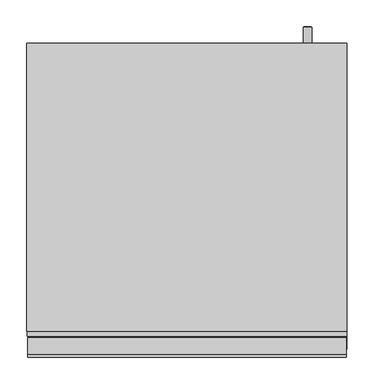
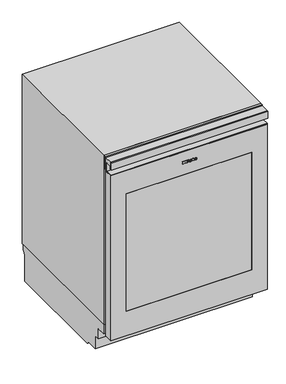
"""IFC4 building model written with IfcOpenShell, lengths in millimetres: proxy geometry, 12792300_OER_KWTUS7054F_OBSW : 39705410_OER_12792300_KWTUS7054F_OBSW."""

from ifc_helpers import new_model, si_unit, point, frame, frame_2d, origin, origin_with_axes, place, context, project, spatial, polyline, circle_curve, ellipse_curve, trimmed, segment, composite_curve, outline, extrude, faceted_brep, source, transform, mapped, element, save
from ifc_brep_helpers import plane_surface, cylinder_surface, revolved_surface, extruded_surface, advanced_brep


def specialty_equipment_a629af37(model_context):
    return source(origin(), model_context, "Body", "SolidModel", [
        extrude(outline(polyline([(722.339, -25.038), (722.339, -23.949), (716.318, -23.949), (716.318, -25.038), (714.806, -25.038), (714.806, -21.078), (716.318, -21.078), (716.318, -22.158), (720.1401247, -22.158), (714.806, -18.135), (720.2462223, -14.094), (716.318, -14.094), (716.318, -15.201), (714.806, -15.201), (714.806, -8.019), (716.318, -8.019), (716.318, -9.162), (722.339, -9.162), (722.339, -8.019), (723.806, -8.019), (723.806, -13.5), (720.431, -16.128), (723.806, -18.765), (723.806, -25.038), (722.339, -25.038)])), frame((0.0, -1.0, 0.0), z_axis=(0.0, 1.0, 0.0), x_axis=(0.0, 0.0, 1.0)), (0.0, 0.0, 1.0), 1.0),
        extrude(outline(polyline([(722.339, 11.484), (722.339, 12.564), (716.318, 12.564), (716.318, 11.484), (714.806, 11.484), (714.806, 18.783), (716.318, 18.783), (716.318, 17.676), (723.806, 17.676), (723.806, 11.484), (722.339, 11.484)])), frame((0.0, -1.0, 0.0), z_axis=(0.0, 1.0, 0.0), x_axis=(0.0, 0.0, 1.0)), (0.0, 0.0, 1.0), 1.0),
        extrude(outline(polyline([(723.275, -4.878), (721.817, -4.194), (723.239, -1.143), (724.697, -1.818), (723.275, -4.878)])), frame((0.0, -1.0, 0.0), z_axis=(0.0, 1.0, 0.0), x_axis=(0.0, 0.0, 1.0)), (0.0, 0.0, 1.0), 1.0),
        extrude(outline(polyline([(721.619, -7.101), (720.008, -7.101), (720.008, -6.03), (716.318, -6.03), (716.318, -7.101), (714.806, -7.101), (714.806, 0.0), (716.318, 0.0), (716.318, -1.044), (721.619, -1.044), (721.619, -7.101)])), frame((0.0, -1.0, 0.0), z_axis=(0.0, 1.0, 0.0), x_axis=(0.0, 0.0, 1.0)), (0.0, 0.0, 1.0), 1.0),
        advanced_brep(
        [(4.959, -1.0, 716.939), (4.959, -1.0, 717.848), (10.98, -1.0, 717.848), (0.504, -1.0, 717.848), (2.979, -1.0, 714.806), (10.827, -1.0, 716.939), (8.109, -1.0, 716.939), (5.967, -1.0, 715.931), (4.959, -1.0, 719.0), (4.959, -1.0, 719.981), (6.498, -1.0, 719.981), (6.498, -1.0, 719.0), (4.959, 0.0, 716.939), (5.967, 0.0, 715.931), (8.109, 0.0, 716.939), (10.827, 0.0, 716.939), (2.979, 0.0, 714.806), (0.504, 0.0, 717.848), (10.98, 0.0, 717.848), (4.959, 0.0, 717.848), (4.959, 0.0, 719.0), (6.498, 0.0, 719.0), (6.498, 0.0, 719.981), (4.959, 0.0, 719.981)],
        [
            (0, 1),
            (1, 2),
            (2, 3, ellipse_curve(frame((5.742, -1.0, 717.848), z_axis=(0.0, -1.0, 0.0), x_axis=(-1.0, 0.0, 0.0)), 5.238, 4.329)),
            (3, 4, circle_curve(frame((3.9870491, -1.0, 718.154), z_axis=(0.0, -1.0, 0.0), x_axis=(0.0, 0.0, -1.0)), 3.4964649)),
            (4, 5, circle_curve(frame((5.6371428, -1.0, 720.53), z_axis=(0.0, -1.0, 0.0), x_axis=(0.0, 0.0, -1.0)), 6.3110933)),
            (5, 6),
            (6, 7, circle_curve(frame((6.4069412, -1.0, 717.776), z_axis=(0.0, 1.0, 0.0), x_axis=(0.0, 0.0, -1.0)), 1.896727)),
            (7, 0, circle_curve(frame((5.967, -1.0, 716.939), z_axis=(0.0, 1.0, 0.0), x_axis=(0.0, 0.0, -1.0)), 1.008)),
            (8, 9),
            (9, 10, circle_curve(frame((5.7285, -1.0, 719.981), z_axis=(0.0, 1.0, 0.0), x_axis=(0.0, 0.0, -1.0)), 0.7695)),
            (10, 11),
            (11, 8),
            (12, 13, circle_curve(frame((5.967, 0.0, 716.939), z_axis=(0.0, -1.0, 0.0), x_axis=(0.0, 0.0, -1.0)), 1.008)),
            (13, 14, circle_curve(frame((6.4069412, 0.0, 717.776), z_axis=(0.0, -1.0, 0.0), x_axis=(0.0, 0.0, -1.0)), 1.896727)),
            (14, 15),
            (15, 16, circle_curve(frame((5.6371428, 0.0, 720.53), z_axis=(0.0, 1.0, 0.0), x_axis=(0.0, 0.0, -1.0)), 6.3110933)),
            (16, 17, circle_curve(frame((3.9870491, 0.0, 718.154), z_axis=(0.0, 1.0, 0.0), x_axis=(0.0, 0.0, -1.0)), 3.4964649)),
            (17, 18, ellipse_curve(frame((5.742, 0.0, 717.848), z_axis=(0.0, 1.0, 0.0), x_axis=(-1.0, 0.0, 0.0)), 5.238, 4.329)),
            (18, 19),
            (19, 12),
            (20, 21),
            (21, 22),
            (22, 23, circle_curve(frame((5.7285, 0.0, 719.981), z_axis=(0.0, -1.0, 0.0), x_axis=(0.0, 0.0, -1.0)), 0.7695)),
            (23, 20),
            (0, 12),
            (19, 1),
            (18, 2),
            (5, 15),
            (14, 6),
            (17, 3),
            (13, 7),
            (16, 4),
            (8, 20),
            (23, 9),
            (22, 10),
            (21, 11),
        ],
        [
            plane_surface(frame((4.959, -1.0, 717.848), z_axis=(0.0, -1.0, 0.0), x_axis=(0.0, 0.0, 1.0))),
            plane_surface(frame((4.959, 0.0, 717.848), z_axis=(0.0, 1.0, 0.0), x_axis=(0.0, 0.0, -1.0))),
            plane_surface(frame((4.959, -1.0, 716.939), z_axis=(1.0, 0.0, 0.0), x_axis=(0.0, 1.0, 0.0))),
            plane_surface(frame((4.959, -1.0, 717.848), z_axis=(0.0, 0.0, -1.0), x_axis=(0.0, 1.0, 0.0))),
            plane_surface(frame((10.827, -1.0, 716.939), z_axis=(0.0, 0.0, 1.0), x_axis=(0.0, 1.0, 0.0))),
            extruded_surface(trimmed(ellipse_curve(frame((5.742, 1.0, 717.848), z_axis=(0.0, -1.0, 0.0), x_axis=(-1.0, 0.0, 0.0)), 5.238, 4.329), [point((10.98, 1.0, 717.848))], [point((0.504, 1.0, 717.848))], True, "CARTESIAN"), (0.0, -1.0, 0.0), 1.0),
            revolved_surface(polyline([(6.4069412, 0.0, 715.8792729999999), (6.4069412, -1.0, 715.8792729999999)]), (6.4069412, 0.0, 717.776), (0.0, 1.0, 0.0)),
            revolved_surface(polyline([(5.967, 0.0, 715.9309999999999), (5.967, -1.0, 715.9309999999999)]), (5.967, 0.0, 716.939), (0.0, 1.0, 0.0)),
            cylinder_surface(frame((3.9870491, 0.0, 718.154), z_axis=(0.0, -1.0, 0.0), x_axis=(0.0, 0.0, -1.0)), 3.4964649),
            cylinder_surface(frame((5.6371428, 0.0, 720.53), z_axis=(0.0, -1.0, 0.0), x_axis=(0.0, 0.0, -1.0)), 6.3110933),
            plane_surface(frame((4.959, -1.0, 719.0), z_axis=(1.0, 0.0, 0.0), x_axis=(0.0, 1.0, 0.0))),
            revolved_surface(polyline([(5.7285, 0.0, 719.2115), (5.7285, -1.0, 719.2115)]), (5.7285, 0.0, 719.981), (0.0, 1.0, 0.0)),
            plane_surface(frame((6.498, -1.0, 719.981), z_axis=(-1.0, 0.0, 0.0), x_axis=(0.0, 1.0, 0.0))),
            plane_surface(frame((6.498, -1.0, 719.0), z_axis=(0.0, 0.0, 1.0), x_axis=(0.0, 1.0, 0.0))),
        ],
        [
            (0, [[1, 2, 3, 4, 5, 6, 7, 8], [9, 10, 11, 12]]),
            (1, [[13, 14, 15, 16, 17, 18, 19, 20], [21, 22, 23, 24]]),
            (2, [[-1, 25, -20, 26]]),
            (3, [[-2, -26, -19, 27]]),
            (4, [[-6, 28, -15, 29]]),
            (5, [[-3, -27, -18, 30]]),
            (6, [[-7, -29, -14, 31]]),
            (7, [[-8, -31, -13, -25]]),
            (8, [[-4, -30, -17, 32]]),
            (9, [[-5, -32, -16, -28]]),
            (10, [[-9, 33, -24, 34]]),
            (11, [[-10, -34, -23, 35]]),
            (12, [[-11, -35, -22, 36]]),
            (13, [[-12, -36, -21, -33]]),
        ],
    ),
        advanced_brep(
        [(23.742, -1.0, 716.939), (23.742, -1.0, 717.848), (29.763, -1.0, 717.848), (19.287, -1.0, 717.848), (21.762, -1.0, 714.806), (29.61, -1.0, 716.939), (26.892, -1.0, 716.939), (24.75, -1.0, 715.931), (23.742, -1.0, 719.0), (23.742, -1.0, 719.981), (25.281, -1.0, 719.981), (25.281, -1.0, 719.0), (23.742, 0.0, 716.939), (24.75, 0.0, 715.931), (26.892, 0.0, 716.939), (29.61, 0.0, 716.939), (21.762, 0.0, 714.806), (19.287, 0.0, 717.848), (29.763, 0.0, 717.848), (23.742, 0.0, 717.848), (23.742, 0.0, 719.0), (25.281, 0.0, 719.0), (25.281, 0.0, 719.981), (23.742, 0.0, 719.981)],
        [
            (0, 1),
            (1, 2),
            (2, 3, ellipse_curve(frame((24.525, -1.0, 717.848), z_axis=(0.0, -1.0, 0.0), x_axis=(-1.0, 0.0, 0.0)), 5.238, 4.329)),
            (3, 4, circle_curve(frame((22.7700491, -1.0, 718.154), z_axis=(0.0, -1.0, 0.0), x_axis=(0.0, 0.0, -1.0)), 3.4964649)),
            (4, 5, circle_curve(frame((24.4201428, -1.0, 720.53), z_axis=(0.0, -1.0, 0.0), x_axis=(0.0, 0.0, -1.0)), 6.3110933)),
            (5, 6),
            (6, 7, circle_curve(frame((25.1899412, -1.0, 717.776), z_axis=(0.0, 1.0, 0.0), x_axis=(0.0, 0.0, -1.0)), 1.896727)),
            (7, 0, circle_curve(frame((24.75, -1.0, 716.939), z_axis=(0.0, 1.0, 0.0), x_axis=(0.0, 0.0, -1.0)), 1.008)),
            (8, 9),
            (9, 10, circle_curve(frame((24.5115, -1.0, 719.981), z_axis=(0.0, 1.0, 0.0), x_axis=(0.0, 0.0, -1.0)), 0.7695)),
            (10, 11),
            (11, 8),
            (12, 13, circle_curve(frame((24.75, 0.0, 716.939), z_axis=(0.0, -1.0, 0.0), x_axis=(0.0, 0.0, -1.0)), 1.008)),
            (13, 14, circle_curve(frame((25.1899412, 0.0, 717.776), z_axis=(0.0, -1.0, 0.0), x_axis=(0.0, 0.0, -1.0)), 1.896727)),
            (14, 15),
            (15, 16, circle_curve(frame((24.4201428, 0.0, 720.53), z_axis=(0.0, 1.0, 0.0), x_axis=(0.0, 0.0, -1.0)), 6.3110933)),
            (16, 17, circle_curve(frame((22.7700491, 0.0, 718.154), z_axis=(0.0, 1.0, 0.0), x_axis=(0.0, 0.0, -1.0)), 3.4964649)),
            (17, 18, ellipse_curve(frame((24.525, 0.0, 717.848), z_axis=(0.0, 1.0, 0.0), x_axis=(-1.0, 0.0, 0.0)), 5.238, 4.329)),
            (18, 19),
            (19, 12),
            (20, 21),
            (21, 22),
            (22, 23, circle_curve(frame((24.5115, 0.0, 719.981), z_axis=(0.0, -1.0, 0.0), x_axis=(0.0, 0.0, -1.0)), 0.7695)),
            (23, 20),
            (0, 12),
            (19, 1),
            (18, 2),
            (5, 15),
            (14, 6),
            (17, 3),
            (13, 7),
            (16, 4),
            (8, 20),
            (23, 9),
            (22, 10),
            (21, 11),
        ],
        [
            plane_surface(frame((23.742, -1.0, 717.848), z_axis=(0.0, -1.0, 0.0), x_axis=(0.0, 0.0, 1.0))),
            plane_surface(frame((23.742, 0.0, 717.848), z_axis=(0.0, 1.0, 0.0), x_axis=(0.0, 0.0, -1.0))),
            plane_surface(frame((23.742, -1.0, 716.939), z_axis=(1.0, 0.0, 0.0), x_axis=(0.0, 1.0, 0.0))),
            plane_surface(frame((23.742, -1.0, 717.848), z_axis=(0.0, 0.0, -1.0), x_axis=(0.0, 1.0, 0.0))),
            plane_surface(frame((29.61, -1.0, 716.939), z_axis=(0.0, 0.0, 1.0), x_axis=(0.0, 1.0, 0.0))),
            extruded_surface(trimmed(ellipse_curve(frame((24.525, 1.0, 717.848), z_axis=(0.0, -1.0, 0.0), x_axis=(-1.0, 0.0, 0.0)), 5.238, 4.329), [point((29.763, 1.0, 717.848))], [point((19.287, 1.0, 717.848))], True, "CARTESIAN"), (0.0, -1.0, 0.0), 1.0),
            revolved_surface(polyline([(25.1899412, 0.0, 715.8792729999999), (25.1899412, -1.0, 715.8792729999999)]), (25.1899412, 0.0, 717.776), (0.0, 1.0, 0.0)),
            revolved_surface(polyline([(24.75, 0.0, 715.9309999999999), (24.75, -1.0, 715.9309999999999)]), (24.75, 0.0, 716.939), (0.0, 1.0, 0.0)),
            cylinder_surface(frame((22.7700491, 0.0, 718.154), z_axis=(0.0, -1.0, 0.0), x_axis=(0.0, 0.0, -1.0)), 3.4964649),
            cylinder_surface(frame((24.4201428, 0.0, 720.53), z_axis=(0.0, -1.0, 0.0), x_axis=(0.0, 0.0, -1.0)), 6.3110933),
            plane_surface(frame((23.742, -1.0, 719.0), z_axis=(1.0, 0.0, 0.0), x_axis=(0.0, 1.0, 0.0))),
            revolved_surface(polyline([(24.5115, 0.0, 719.2115), (24.5115, -1.0, 719.2115)]), (24.5115, 0.0, 719.981), (0.0, 1.0, 0.0)),
            plane_surface(frame((25.281, -1.0, 719.981), z_axis=(-1.0, 0.0, 0.0), x_axis=(0.0, 1.0, 0.0))),
            plane_surface(frame((25.281, -1.0, 719.0), z_axis=(0.0, 0.0, 1.0), x_axis=(0.0, 1.0, 0.0))),
        ],
        [
            (0, [[1, 2, 3, 4, 5, 6, 7, 8], [9, 10, 11, 12]]),
            (1, [[13, 14, 15, 16, 17, 18, 19, 20], [21, 22, 23, 24]]),
            (2, [[-1, 25, -20, 26]]),
            (3, [[-2, -26, -19, 27]]),
            (4, [[-6, 28, -15, 29]]),
            (5, [[-3, -27, -18, 30]]),
            (6, [[-7, -29, -14, 31]]),
            (7, [[-8, -31, -13, -25]]),
            (8, [[-4, -30, -17, 32]]),
            (9, [[-5, -32, -16, -28]]),
            (10, [[-9, 33, -24, 34]]),
            (11, [[-10, -34, -23, 35]]),
            (12, [[-11, -35, -22, 36]]),
            (13, [[-12, -36, -21, -33]]),
        ],
    ),
        extrude(outline(polyline([(699.491, -85.038), (699.491, -83.949), (693.47, -83.949), (693.47, -85.038), (691.958, -85.038), (691.958, -81.078), (693.47, -81.078), (693.47, -82.158), (697.2921247, -82.158), (691.958, -78.135), (697.3982223, -74.094), (693.47, -74.094), (693.47, -75.201), (691.958, -75.201), (691.958, -68.019), (693.47, -68.019), (693.47, -69.162), (699.491, -69.162), (699.491, -68.019), (700.958, -68.019), (700.958, -73.5), (697.583, -76.128), (700.958, -78.765), (700.958, -85.038), (699.491, -85.038)])), frame((0.0, 50.0, 0.0), z_axis=(0.0, 1.0, 0.0), x_axis=(0.0, 0.0, 1.0)), (0.0, 0.0, 1.0), 1.0),
        extrude(outline(polyline([(699.491, -48.516), (699.491, -47.436), (693.47, -47.436), (693.47, -48.516), (691.958, -48.516), (691.958, -41.217), (693.47, -41.217), (693.47, -42.324), (700.958, -42.324), (700.958, -48.516), (699.491, -48.516)])), frame((0.0, 50.0, 0.0), z_axis=(0.0, 1.0, 0.0), x_axis=(0.0, 0.0, 1.0)), (0.0, 0.0, 1.0), 1.0),
        extrude(outline(polyline([(700.427, -64.878), (698.969, -64.194), (700.391, -61.143), (701.849, -61.818), (700.427, -64.878)])), frame((0.0, 50.0, 0.0), z_axis=(0.0, 1.0, 0.0), x_axis=(0.0, 0.0, 1.0)), (0.0, 0.0, 1.0), 1.0),
        extrude(outline(polyline([(698.771, -67.101), (697.16, -67.101), (697.16, -66.03), (693.47, -66.03), (693.47, -67.101), (691.958, -67.101), (691.958, -60.0), (693.47, -60.0), (693.47, -61.044), (698.771, -61.044), (698.771, -67.101)])), frame((0.0, 50.0, 0.0), z_axis=(0.0, 1.0, 0.0), x_axis=(0.0, 0.0, 1.0)), (0.0, 0.0, 1.0), 1.0),
        advanced_brep(
        [(-55.041, 50.0, 694.091), (-55.041, 50.0, 695.0), (-49.02, 50.0, 695.0), (-59.496, 50.0, 695.0), (-57.021, 50.0, 691.958), (-49.173, 50.0, 694.091), (-51.891, 50.0, 694.091), (-54.033, 50.0, 693.083), (-55.041, 50.0, 696.152), (-55.041, 50.0, 697.133), (-53.502, 50.0, 697.133), (-53.502, 50.0, 696.152), (-55.041, 51.0, 694.091), (-54.033, 51.0, 693.083), (-51.891, 51.0, 694.091), (-49.173, 51.0, 694.091), (-57.021, 51.0, 691.958), (-59.496, 51.0, 695.0), (-49.02, 51.0, 695.0), (-55.041, 51.0, 695.0), (-55.041, 51.0, 696.152), (-53.502, 51.0, 696.152), (-53.502, 51.0, 697.133), (-55.041, 51.0, 697.133)],
        [
            (0, 1),
            (1, 2),
            (2, 3, ellipse_curve(frame((-54.258, 50.0, 695.0), z_axis=(0.0, -1.0, 0.0), x_axis=(-1.0, 0.0, 0.0)), 5.238, 4.329)),
            (3, 4, circle_curve(frame((-56.0129509, 50.0, 695.306), z_axis=(0.0, -1.0, 0.0), x_axis=(0.0, 0.0, -1.0)), 3.4964649)),
            (4, 5, circle_curve(frame((-54.3628572, 50.0, 697.682), z_axis=(0.0, -1.0, 0.0), x_axis=(0.0, 0.0, -1.0)), 6.3110933)),
            (5, 6),
            (6, 7, circle_curve(frame((-53.5930588, 50.0, 694.928), z_axis=(0.0, 1.0, 0.0), x_axis=(0.0, 0.0, -1.0)), 1.896727)),
            (7, 0, circle_curve(frame((-54.033, 50.0, 694.091), z_axis=(0.0, 1.0, 0.0), x_axis=(0.0, 0.0, -1.0)), 1.008)),
            (8, 9),
            (9, 10, circle_curve(frame((-54.2715, 50.0, 697.133), z_axis=(0.0, 1.0, 0.0), x_axis=(0.0, 0.0, -1.0)), 0.7695)),
            (10, 11),
            (11, 8),
            (12, 13, circle_curve(frame((-54.033, 51.0, 694.091), z_axis=(0.0, -1.0, 0.0), x_axis=(0.0, 0.0, -1.0)), 1.008)),
            (13, 14, circle_curve(frame((-53.5930588, 51.0, 694.928), z_axis=(0.0, -1.0, 0.0), x_axis=(0.0, 0.0, -1.0)), 1.896727)),
            (14, 15),
            (15, 16, circle_curve(frame((-54.3628572, 51.0, 697.682), z_axis=(0.0, 1.0, 0.0), x_axis=(0.0, 0.0, -1.0)), 6.3110933)),
            (16, 17, circle_curve(frame((-56.0129509, 51.0, 695.306), z_axis=(0.0, 1.0, 0.0), x_axis=(0.0, 0.0, -1.0)), 3.4964649)),
            (17, 18, ellipse_curve(frame((-54.258, 51.0, 695.0), z_axis=(0.0, 1.0, 0.0), x_axis=(-1.0, 0.0, 0.0)), 5.238, 4.329)),
            (18, 19),
            (19, 12),
            (20, 21),
            (21, 22),
            (22, 23, circle_curve(frame((-54.2715, 51.0, 697.133), z_axis=(0.0, -1.0, 0.0), x_axis=(0.0, 0.0, -1.0)), 0.7695)),
            (23, 20),
            (0, 12),
            (19, 1),
            (18, 2),
            (5, 15),
            (14, 6),
            (17, 3),
            (13, 7),
            (16, 4),
            (8, 20),
            (23, 9),
            (22, 10),
            (21, 11),
        ],
        [
            plane_surface(frame((-55.041, 50.0, 695.0), z_axis=(0.0, -1.0, 0.0), x_axis=(0.0, 0.0, 1.0))),
            plane_surface(frame((-55.041, 51.0, 695.0), z_axis=(0.0, 1.0, 0.0), x_axis=(0.0, 0.0, -1.0))),
            plane_surface(frame((-55.041, 50.0, 694.091), z_axis=(1.0, 0.0, 0.0), x_axis=(0.0, 1.0, 0.0))),
            plane_surface(frame((-55.041, 50.0, 695.0), z_axis=(0.0, 0.0, -1.0), x_axis=(0.0, 1.0, 0.0))),
            plane_surface(frame((-49.173, 50.0, 694.091), z_axis=(0.0, 0.0, 1.0), x_axis=(0.0, 1.0, 0.0))),
            extruded_surface(trimmed(ellipse_curve(frame((-54.258, 52.0, 695.0), z_axis=(0.0, -1.0, 0.0), x_axis=(-1.0, 0.0, 0.0)), 5.238, 4.329), [point((-49.02, 52.0, 695.0))], [point((-59.496, 52.0, 695.0))], True, "CARTESIAN"), (0.0, -1.0, 0.0), 1.0),
            revolved_surface(polyline([(-53.5930588, 51.0, 693.0312729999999), (-53.5930588, 50.0, 693.0312729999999)]), (-53.5930588, 51.0, 694.928), (0.0, 1.0, 0.0)),
            revolved_surface(polyline([(-54.033, 51.0, 693.083), (-54.033, 50.0, 693.083)]), (-54.033, 51.0, 694.091), (0.0, 1.0, 0.0)),
            cylinder_surface(frame((-56.0129509, 51.0, 695.306), z_axis=(0.0, -1.0, 0.0), x_axis=(0.0, 0.0, -1.0)), 3.4964649),
            cylinder_surface(frame((-54.3628572, 51.0, 697.682), z_axis=(0.0, -1.0, 0.0), x_axis=(0.0, 0.0, -1.0)), 6.3110933),
            plane_surface(frame((-55.041, 50.0, 696.152), z_axis=(1.0, 0.0, 0.0), x_axis=(0.0, 1.0, 0.0))),
            revolved_surface(polyline([(-54.2715, 51.0, 696.3635), (-54.2715, 50.0, 696.3635)]), (-54.2715, 51.0, 697.133), (0.0, 1.0, 0.0)),
            plane_surface(frame((-53.502, 50.0, 697.133), z_axis=(-1.0, 0.0, 0.0), x_axis=(0.0, 1.0, 0.0))),
            plane_surface(frame((-53.502, 50.0, 696.152), z_axis=(0.0, 0.0, 1.0), x_axis=(0.0, 1.0, 0.0))),
        ],
        [
            (0, [[1, 2, 3, 4, 5, 6, 7, 8], [9, 10, 11, 12]]),
            (1, [[13, 14, 15, 16, 17, 18, 19, 20], [21, 22, 23, 24]]),
            (2, [[-1, 25, -20, 26]]),
            (3, [[-2, -26, -19, 27]]),
            (4, [[-6, 28, -15, 29]]),
            (5, [[-3, -27, -18, 30]]),
            (6, [[-7, -29, -14, 31]]),
            (7, [[-8, -31, -13, -25]]),
            (8, [[-4, -30, -17, 32]]),
            (9, [[-5, -32, -16, -28]]),
            (10, [[-9, 33, -24, 34]]),
            (11, [[-10, -34, -23, 35]]),
            (12, [[-11, -35, -22, 36]]),
            (13, [[-12, -36, -21, -33]]),
        ],
    ),
        advanced_brep(
        [(-36.258, 50.0, 694.091), (-36.258, 50.0, 695.0), (-30.237, 50.0, 695.0), (-40.713, 50.0, 695.0), (-38.238, 50.0, 691.958), (-30.39, 50.0, 694.091), (-33.108, 50.0, 694.091), (-35.25, 50.0, 693.083), (-36.258, 50.0, 696.152), (-36.258, 50.0, 697.133), (-34.719, 50.0, 697.133), (-34.719, 50.0, 696.152), (-36.258, 51.0, 694.091), (-35.25, 51.0, 693.083), (-33.108, 51.0, 694.091), (-30.39, 51.0, 694.091), (-38.238, 51.0, 691.958), (-40.713, 51.0, 695.0), (-30.237, 51.0, 695.0), (-36.258, 51.0, 695.0), (-36.258, 51.0, 696.152), (-34.719, 51.0, 696.152), (-34.719, 51.0, 697.133), (-36.258, 51.0, 697.133)],
        [
            (0, 1),
            (1, 2),
            (2, 3, ellipse_curve(frame((-35.475, 50.0, 695.0), z_axis=(0.0, -1.0, 0.0), x_axis=(-1.0, 0.0, 0.0)), 5.238, 4.329)),
            (3, 4, circle_curve(frame((-37.2299509, 50.0, 695.306), z_axis=(0.0, -1.0, 0.0), x_axis=(0.0, 0.0, -1.0)), 3.4964649)),
            (4, 5, circle_curve(frame((-35.5798572, 50.0, 697.682), z_axis=(0.0, -1.0, 0.0), x_axis=(0.0, 0.0, -1.0)), 6.3110933)),
            (5, 6),
            (6, 7, circle_curve(frame((-34.8100588, 50.0, 694.928), z_axis=(0.0, 1.0, 0.0), x_axis=(0.0, 0.0, -1.0)), 1.896727)),
            (7, 0, circle_curve(frame((-35.25, 50.0, 694.091), z_axis=(0.0, 1.0, 0.0), x_axis=(0.0, 0.0, -1.0)), 1.008)),
            (8, 9),
            (9, 10, circle_curve(frame((-35.4885, 50.0, 697.133), z_axis=(0.0, 1.0, 0.0), x_axis=(0.0, 0.0, -1.0)), 0.7695)),
            (10, 11),
            (11, 8),
            (12, 13, circle_curve(frame((-35.25, 51.0, 694.091), z_axis=(0.0, -1.0, 0.0), x_axis=(0.0, 0.0, -1.0)), 1.008)),
            (13, 14, circle_curve(frame((-34.8100588, 51.0, 694.928), z_axis=(0.0, -1.0, 0.0), x_axis=(0.0, 0.0, -1.0)), 1.896727)),
            (14, 15),
            (15, 16, circle_curve(frame((-35.5798572, 51.0, 697.682), z_axis=(0.0, 1.0, 0.0), x_axis=(0.0, 0.0, -1.0)), 6.3110933)),
            (16, 17, circle_curve(frame((-37.2299509, 51.0, 695.306), z_axis=(0.0, 1.0, 0.0), x_axis=(0.0, 0.0, -1.0)), 3.4964649)),
            (17, 18, ellipse_curve(frame((-35.475, 51.0, 695.0), z_axis=(0.0, 1.0, 0.0), x_axis=(-1.0, 0.0, 0.0)), 5.238, 4.329)),
            (18, 19),
            (19, 12),
            (20, 21),
            (21, 22),
            (22, 23, circle_curve(frame((-35.4885, 51.0, 697.133), z_axis=(0.0, -1.0, 0.0), x_axis=(0.0, 0.0, -1.0)), 0.7695)),
            (23, 20),
            (0, 12),
            (19, 1),
            (18, 2),
            (5, 15),
            (14, 6),
            (17, 3),
            (13, 7),
            (16, 4),
            (8, 20),
            (23, 9),
            (22, 10),
            (21, 11),
        ],
        [
            plane_surface(frame((-36.258, 50.0, 695.0), z_axis=(0.0, -1.0, 0.0), x_axis=(0.0, 0.0, 1.0))),
            plane_surface(frame((-36.258, 51.0, 695.0), z_axis=(0.0, 1.0, 0.0), x_axis=(0.0, 0.0, -1.0))),
            plane_surface(frame((-36.258, 50.0, 694.091), z_axis=(1.0, 0.0, 0.0), x_axis=(0.0, 1.0, 0.0))),
            plane_surface(frame((-36.258, 50.0, 695.0), z_axis=(0.0, 0.0, -1.0), x_axis=(0.0, 1.0, 0.0))),
            plane_surface(frame((-30.39, 50.0, 694.091), z_axis=(0.0, 0.0, 1.0), x_axis=(0.0, 1.0, 0.0))),
            extruded_surface(trimmed(ellipse_curve(frame((-35.475, 52.0, 695.0), z_axis=(0.0, -1.0, 0.0), x_axis=(-1.0, 0.0, 0.0)), 5.238, 4.329), [point((-30.237, 52.0, 695.0))], [point((-40.713, 52.0, 695.0))], True, "CARTESIAN"), (0.0, -1.0, 0.0), 1.0),
            revolved_surface(polyline([(-34.8100588, 51.0, 693.0312729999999), (-34.8100588, 50.0, 693.0312729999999)]), (-34.8100588, 51.0, 694.928), (0.0, 1.0, 0.0)),
            revolved_surface(polyline([(-35.25, 51.0, 693.083), (-35.25, 50.0, 693.083)]), (-35.25, 51.0, 694.091), (0.0, 1.0, 0.0)),
            cylinder_surface(frame((-37.2299509, 51.0, 695.306), z_axis=(0.0, -1.0, 0.0), x_axis=(0.0, 0.0, -1.0)), 3.4964649),
            cylinder_surface(frame((-35.5798572, 51.0, 697.682), z_axis=(0.0, -1.0, 0.0), x_axis=(0.0, 0.0, -1.0)), 6.3110933),
            plane_surface(frame((-36.258, 50.0, 696.152), z_axis=(1.0, 0.0, 0.0), x_axis=(0.0, 1.0, 0.0))),
            revolved_surface(polyline([(-35.4885, 51.0, 696.3635), (-35.4885, 50.0, 696.3635)]), (-35.4885, 51.0, 697.133), (0.0, 1.0, 0.0)),
            plane_surface(frame((-34.719, 50.0, 697.133), z_axis=(-1.0, 0.0, 0.0), x_axis=(0.0, 1.0, 0.0))),
            plane_surface(frame((-34.719, 50.0, 696.152), z_axis=(0.0, 0.0, 1.0), x_axis=(0.0, 1.0, 0.0))),
        ],
        [
            (0, [[1, 2, 3, 4, 5, 6, 7, 8], [9, 10, 11, 12]]),
            (1, [[13, 14, 15, 16, 17, 18, 19, 20], [21, 22, 23, 24]]),
            (2, [[-1, 25, -20, 26]]),
            (3, [[-2, -26, -19, 27]]),
            (4, [[-6, 28, -15, 29]]),
            (5, [[-3, -27, -18, 30]]),
            (6, [[-7, -29, -14, 31]]),
            (7, [[-8, -31, -13, -25]]),
            (8, [[-4, -30, -17, 32]]),
            (9, [[-5, -32, -16, -28]]),
            (10, [[-9, 33, -24, 34]]),
            (11, [[-10, -34, -23, 35]]),
            (12, [[-11, -35, -22, 36]]),
            (13, [[-12, -36, -21, -33]]),
        ],
    ),
        extrude(outline(polyline([(567.7947388, -157.5), (572.5, -157.5), (576.5, -161.5), (576.5, -168.5), (572.5, -172.5), (567.7947388, -172.5), (567.7947388, -157.5)])), frame((0.0, 54.5000244, 0.0), z_axis=(0.0, 1.0, 0.0), x_axis=(0.0, 0.0, 1.0)), (0.0, 0.0, 1.0), 433.111792),
        extrude(outline(polyline([(567.7947388, -102.5), (572.5, -102.5), (576.5, -106.5), (576.5, -113.5), (572.5, -117.5), (567.7947388, -117.5), (567.7947388, -102.5)])), frame((0.0, 54.5000244, 0.0), z_axis=(0.0, 1.0, 0.0), x_axis=(0.0, 0.0, 1.0)), (0.0, 0.0, 1.0), 433.111792),
        extrude(outline(polyline([(567.7947388, 157.5), (567.7947388, 172.5), (572.5, 172.5), (576.5, 168.5), (576.5, 161.5), (572.5, 157.5), (567.7947388, 157.5)])), frame((0.0, 54.5000244, 0.0), z_axis=(0.0, 1.0, 0.0), x_axis=(0.0, 0.0, 1.0)), (0.0, 0.0, 1.0), 433.111792),
        extrude(outline(polyline([(567.7947388, 102.5), (567.7947388, 117.5), (572.5, 117.5), (576.5, 113.5), (576.5, 106.5), (572.5, 102.5), (567.7947388, 102.5)])), frame((0.0, 54.5000244, 0.0), z_axis=(0.0, 1.0, 0.0), x_axis=(0.0, 0.0, 1.0)), (0.0, 0.0, 1.0), 433.111792),
        extrude(outline(polyline([(567.7947388, -47.5), (572.5, -47.5), (576.5, -51.5), (576.5, -58.5), (572.5, -62.5), (567.7947388, -62.5), (567.7947388, -47.5)])), frame((0.0, 54.5000244, 0.0), z_axis=(0.0, 1.0, 0.0), x_axis=(0.0, 0.0, 1.0)), (0.0, 0.0, 1.0), 433.111792),
        extrude(outline(polyline([(567.7947388, 47.5), (567.7947388, 62.5), (572.5, 62.5), (576.5, 58.5), (576.5, 51.5), (572.5, 47.5), (567.7947388, 47.5)])), frame((0.0, 54.5000244, 0.0), z_axis=(0.0, 1.0, 0.0), x_axis=(0.0, 0.0, 1.0)), (0.0, 0.0, 1.0), 433.111792),
        extrude(outline(polyline([(567.7947388, 7.5), (572.5, 7.5), (576.5, 3.5), (576.5, -3.5), (572.5, -7.5), (567.7947388, -7.5), (567.7947388, 7.5)])), frame((0.0, 54.5000244, 0.0), z_axis=(0.0, 1.0, 0.0), x_axis=(0.0, 0.0, 1.0)), (0.0, 0.0, 1.0), 433.111792),
        extrude(outline(polyline([(478.3, -157.5), (483.0052612, -157.5), (487.0052612, -161.5), (487.0052612, -168.5), (483.0052612, -172.5), (478.3, -172.5), (478.3, -157.5)])), frame((0.0, 54.5000244, 0.0), z_axis=(0.0, 1.0, 0.0), x_axis=(0.0, 0.0, 1.0)), (0.0, 0.0, 1.0), 433.111792),
        extrude(outline(polyline([(478.3, -102.5), (483.0052612, -102.5), (487.0052612, -106.5), (487.0052612, -113.5), (483.0052612, -117.5), (478.3, -117.5), (478.3, -102.5)])), frame((0.0, 54.5000244, 0.0), z_axis=(0.0, 1.0, 0.0), x_axis=(0.0, 0.0, 1.0)), (0.0, 0.0, 1.0), 433.111792),
        extrude(outline(polyline([(478.3, 157.5), (478.3, 172.5), (483.0052612, 172.5), (487.0052612, 168.5), (487.0052612, 161.5), (483.0052612, 157.5), (478.3, 157.5)])), frame((0.0, 54.5000244, 0.0), z_axis=(0.0, 1.0, 0.0), x_axis=(0.0, 0.0, 1.0)), (0.0, 0.0, 1.0), 433.111792),
        extrude(outline(polyline([(478.3, 102.5), (478.3, 117.5), (483.0052612, 117.5), (487.0052612, 113.5), (487.0052612, 106.5), (483.0052612, 102.5), (478.3, 102.5)])), frame((0.0, 54.5000244, 0.0), z_axis=(0.0, 1.0, 0.0), x_axis=(0.0, 0.0, 1.0)), (0.0, 0.0, 1.0), 433.111792),
        extrude(outline(polyline([(478.3, -47.5), (483.0052612, -47.5), (487.0052612, -51.5), (487.0052612, -58.5), (483.0052612, -62.5), (478.3, -62.5), (478.3, -47.5)])), frame((0.0, 54.5000244, 0.0), z_axis=(0.0, 1.0, 0.0), x_axis=(0.0, 0.0, 1.0)), (0.0, 0.0, 1.0), 433.111792),
        extrude(outline(polyline([(478.3, 47.5), (478.3, 62.5), (483.0052612, 62.5), (487.0052612, 58.5), (487.0052612, 51.5), (483.0052612, 47.5), (478.3, 47.5)])), frame((0.0, 54.5000244, 0.0), z_axis=(0.0, 1.0, 0.0), x_axis=(0.0, 0.0, 1.0)), (0.0, 0.0, 1.0), 433.111792),
        extrude(outline(polyline([(478.3, 7.5), (483.0052612, 7.5), (487.0052612, 3.5), (487.0052612, -3.5), (483.0052612, -7.5), (478.3, -7.5), (478.3, 7.5)])), frame((0.0, 54.5000244, 0.0), z_axis=(0.0, 1.0, 0.0), x_axis=(0.0, 0.0, 1.0)), (0.0, 0.0, 1.0), 433.111792),
        extrude(outline(polyline([(387.8, -157.5), (392.5052612, -157.5), (396.5052612, -161.5), (396.5052612, -168.5), (392.5052612, -172.5), (387.8, -172.5), (387.8, -157.5)])), frame((0.0, 54.5000244, 0.0), z_axis=(0.0, 1.0, 0.0), x_axis=(0.0, 0.0, 1.0)), (0.0, 0.0, 1.0), 433.111792),
        extrude(outline(polyline([(387.8, -102.5), (392.5052612, -102.5), (396.5052612, -106.5), (396.5052612, -113.5), (392.5052612, -117.5), (387.8, -117.5), (387.8, -102.5)])), frame((0.0, 54.5000244, 0.0), z_axis=(0.0, 1.0, 0.0), x_axis=(0.0, 0.0, 1.0)), (0.0, 0.0, 1.0), 433.111792),
        extrude(outline(polyline([(387.8, 157.5), (387.8, 172.5), (392.5052612, 172.5), (396.5052612, 168.5), (396.5052612, 161.5), (392.5052612, 157.5), (387.8, 157.5)])), frame((0.0, 54.5000244, 0.0), z_axis=(0.0, 1.0, 0.0), x_axis=(0.0, 0.0, 1.0)), (0.0, 0.0, 1.0), 433.111792),
        extrude(outline(polyline([(387.8, 102.5), (387.8, 117.5), (392.5052612, 117.5), (396.5052612, 113.5), (396.5052612, 106.5), (392.5052612, 102.5), (387.8, 102.5)])), frame((0.0, 54.5000244, 0.0), z_axis=(0.0, 1.0, 0.0), x_axis=(0.0, 0.0, 1.0)), (0.0, 0.0, 1.0), 433.111792),
        extrude(outline(polyline([(387.8, -47.5), (392.5052612, -47.5), (396.5052612, -51.5), (396.5052612, -58.5), (392.5052612, -62.5), (387.8, -62.5), (387.8, -47.5)])), frame((0.0, 54.5000244, 0.0), z_axis=(0.0, 1.0, 0.0), x_axis=(0.0, 0.0, 1.0)), (0.0, 0.0, 1.0), 433.111792),
        extrude(outline(polyline([(387.8, 47.5), (387.8, 62.5), (392.5052612, 62.5), (396.5052612, 58.5), (396.5052612, 51.5), (392.5052612, 47.5), (387.8, 47.5)])), frame((0.0, 54.5000244, 0.0), z_axis=(0.0, 1.0, 0.0), x_axis=(0.0, 0.0, 1.0)), (0.0, 0.0, 1.0), 433.111792),
        extrude(outline(polyline([(387.8, 7.5), (392.5052612, 7.5), (396.5052612, 3.5), (396.5052612, -3.5), (392.5052612, -7.5), (387.8, -7.5), (387.8, 7.5)])), frame((0.0, 54.5000244, 0.0), z_axis=(0.0, 1.0, 0.0), x_axis=(0.0, 0.0, 1.0)), (0.0, 0.0, 1.0), 433.111792),
        extrude(outline(polyline([(238.8, -157.5), (243.5052612, -157.5), (247.5052612, -161.5), (247.5052612, -168.5), (243.5052612, -172.5), (238.8, -172.5), (238.8, -157.5)])), frame((0.0, 54.5000244, 0.0), z_axis=(0.0, 1.0, 0.0), x_axis=(0.0, 0.0, 1.0)), (0.0, 0.0, 1.0), 433.111792),
        extrude(outline(polyline([(238.8, -102.5), (243.5052612, -102.5), (247.5052612, -106.5), (247.5052612, -113.5), (243.5052612, -117.5), (238.8, -117.5), (238.8, -102.5)])), frame((0.0, 54.5000244, 0.0), z_axis=(0.0, 1.0, 0.0), x_axis=(0.0, 0.0, 1.0)), (0.0, 0.0, 1.0), 433.111792),
        extrude(outline(polyline([(238.8, 157.5), (238.8, 172.5), (243.5052612, 172.5), (247.5052612, 168.5), (247.5052612, 161.5), (243.5052612, 157.5), (238.8, 157.5)])), frame((0.0, 54.5000244, 0.0), z_axis=(0.0, 1.0, 0.0), x_axis=(0.0, 0.0, 1.0)), (0.0, 0.0, 1.0), 433.111792),
        extrude(outline(polyline([(238.8, 102.5), (238.8, 117.5), (243.5052612, 117.5), (247.5052612, 113.5), (247.5052612, 106.5), (243.5052612, 102.5), (238.8, 102.5)])), frame((0.0, 54.5000244, 0.0), z_axis=(0.0, 1.0, 0.0), x_axis=(0.0, 0.0, 1.0)), (0.0, 0.0, 1.0), 433.111792),
        extrude(outline(polyline([(238.8, -47.5), (243.5052612, -47.5), (247.5052612, -51.5), (247.5052612, -58.5), (243.5052612, -62.5), (238.8, -62.5), (238.8, -47.5)])), frame((0.0, 54.5000244, 0.0), z_axis=(0.0, 1.0, 0.0), x_axis=(0.0, 0.0, 1.0)), (0.0, 0.0, 1.0), 433.111792),
        extrude(outline(polyline([(238.8, 47.5), (238.8, 62.5), (243.5052612, 62.5), (247.5052612, 58.5), (247.5052612, 51.5), (243.5052612, 47.5), (238.8, 47.5)])), frame((0.0, 54.5000244, 0.0), z_axis=(0.0, 1.0, 0.0), x_axis=(0.0, 0.0, 1.0)), (0.0, 0.0, 1.0), 433.111792),
        extrude(outline(polyline([(238.8, 7.5), (243.5052612, 7.5), (247.5052612, 3.5), (247.5052612, -3.5), (243.5052612, -7.5), (238.8, -7.5), (238.8, 7.5)])), frame((0.0, 54.5000244, 0.0), z_axis=(0.0, 1.0, 0.0), x_axis=(0.0, 0.0, 1.0)), (0.0, 0.0, 1.0), 433.111792),
        extrude(outline(polyline([(238.5, 51.0000244), (-238.5, 51.0000244), (-238.5, 54.5000244), (238.5, 54.5000244), (238.5, 51.0000244)])), frame((0.0, 0.0, 146.0), z_axis=(0.0, 0.0, 1.0), x_axis=(1.0, 0.0, 0.0)), (0.0, 0.0, 1.0), 27.5),
        extrude(outline(polyline([(238.5, 51.0000244), (-238.5, 51.0000244), (-238.5, 54.5000244), (238.5, 54.5000244), (238.5, 51.0000244)])), frame((0.0, 0.0, 235.0), z_axis=(0.0, 0.0, 1.0), x_axis=(1.0, 0.0, 0.0)), (0.0, 0.0, 1.0), 27.5),
        extrude(outline(polyline([(209.0, -226.9226475), (209.0, -238.5), (141.0206134, -238.5), (141.0206134, -216.8069153), (191.4790485, -216.8069153), (209.0, -226.9226475)])), frame((0.0, 54.5000244, 0.0), z_axis=(0.0, 1.0, 0.0), x_axis=(0.0, 0.0, 1.0)), (0.0, 0.0, 1.0), 308.1981801),
        extrude(outline(polyline([(209.0, 226.9226475), (191.4790485, 216.8069153), (141.0206134, 216.8069153), (141.0206134, 238.5), (209.0, 238.5), (209.0, 226.9226475)])), frame((0.0, 54.5000244, 0.0), z_axis=(0.0, 1.0, 0.0), x_axis=(0.0, 0.0, 1.0)), (0.0, 0.0, 1.0), 308.1981801),
        extrude(outline(polyline([(238.5, 51.0000244), (-238.5, 51.0000244), (-238.5, 54.5000244), (238.5, 54.5000244), (238.5, 51.0000244)])), frame((0.0, 0.0, 564.0), z_axis=(0.0, 0.0, 1.0), x_axis=(1.0, 0.0, 0.0)), (0.0, 0.0, 1.0), 27.5),
        extrude(outline(polyline([(238.5, 51.0000244), (-238.5, 51.0000244), (-238.5, 54.5000244), (238.5, 54.5000244), (238.5, 51.0000244)])), frame((0.0, 0.0, 474.5), z_axis=(0.0, 0.0, 1.0), x_axis=(1.0, 0.0, 0.0)), (0.0, 0.0, 1.0), 27.5),
        extrude(outline(polyline([(238.5, 51.0000244), (-238.5, 51.0000244), (-238.5, 54.5000244), (238.5, 54.5000244), (238.5, 51.0000244)])), frame((0.0, 0.0, 384.0), z_axis=(0.0, 0.0, 1.0), x_axis=(1.0, 0.0, 0.0)), (0.0, 0.0, 1.0), 27.5),
        faceted_brep([(250.0, 51.0000244, 719.0), (-250.0, 51.0000244, 719.0), (-250.0, 51.0000244, 665.5838574), (250.0, 51.0000244, 665.5838574), (24.4663125, 51.0000244, 676.4573822), (-24.4663125, 51.0000244, 676.4573822), (-24.4663125, 51.0000244, 712.8698491), (24.4663125, 51.0000244, 712.8698491), (250.0, 487.6118164, 719.0), (250.0, 487.6118164, 665.5838574), (-250.0, 487.6118164, 665.5838574), (-250.0, 487.6118164, 719.0), (24.4663125, 80.5000244, 676.4573822), (24.4663125, 80.5000244, 712.8698491), (-24.4663125, 80.5000244, 712.8698491), (-24.4663125, 80.5000244, 676.4573822)], [[[0, 1, 2, 3], [4, 5, 6, 7]], [[8, 9, 10, 11]], [[1, 0, 8, 11]], [[2, 1, 11, 10]], [[3, 2, 10, 9]], [[0, 3, 9, 8]], [[12, 13, 14, 15]], [[12, 15, 5, 4]], [[15, 14, 6, 5]], [[14, 13, 7, 6]], [[13, 12, 4, 7]]]),
        extrude(outline(polyline([(238.5, 487.6118164), (-238.5, 487.6118164), (-238.5, 491.1118408), (238.5, 491.1118408), (238.5, 487.6118164)])), frame((0.0, 0.0, 474.5), z_axis=(0.0, 0.0, 1.0), x_axis=(1.0, 0.0, 0.0)), (0.0, 0.0, 1.0), 27.5),
        extrude(outline(polyline([(238.5, 487.6118164), (-238.5, 487.6118164), (-238.5, 491.1118408), (238.5, 491.1118408), (238.5, 487.6118164)])), frame((0.0, 0.0, 235.0), z_axis=(0.0, 0.0, 1.0), x_axis=(1.0, 0.0, 0.0)), (0.0, 0.0, 1.0), 27.5),
        extrude(outline(polyline([(238.5, 487.6118164), (-238.5, 487.6118164), (-238.5, 491.1118408), (238.5, 491.1118408), (238.5, 487.6118164)])), frame((0.0, 0.0, 564.0), z_axis=(0.0, 0.0, 1.0), x_axis=(1.0, 0.0, 0.0)), (0.0, 0.0, 1.0), 27.5),
        extrude(outline(polyline([(238.5, 51.0000244), (-238.5, 51.0000244), (-238.5, 54.5000244), (238.5, 54.5000244), (238.5, 51.0000244)])), frame((0.0, 0.0, 235.0), z_axis=(0.0, 0.0, 1.0), x_axis=(1.0, 0.0, 0.0)), (0.0, 0.0, 1.0), 27.5),
        extrude(outline(polyline([(238.5, 487.6118164), (-238.5, 487.6118164), (-238.5, 491.1118408), (238.5, 491.1118408), (238.5, 487.6118164)])), frame((0.0, 0.0, 384.0), z_axis=(0.0, 0.0, 1.0), x_axis=(1.0, 0.0, 0.0)), (0.0, 0.0, 1.0), 27.5),
        extrude(outline(polyline([(130.5000244, 149.7947388), (115.5000244, 149.7947388), (115.5000244, 154.5), (119.5000244, 158.5), (126.5000244, 158.5), (130.5000244, 154.5), (130.5000244, 149.7947388)])), frame((-216.555896, 0.0, 0.0), z_axis=(1.0, 0.0, 0.0), x_axis=(0.0, 1.0, 0.0)), (0.0, 0.0, 1.0), 433.111792),
        extrude(outline(polyline([(192.5000244, 149.7947388), (177.5000244, 149.7947388), (177.5000244, 154.5), (181.5000244, 158.5), (188.5000244, 158.5), (192.5000244, 154.5), (192.5000244, 149.7947388)])), frame((-216.555896, 0.0, 0.0), z_axis=(1.0, 0.0, 0.0), x_axis=(0.0, 1.0, 0.0)), (0.0, 0.0, 1.0), 433.111792),
        extrude(outline(polyline([(254.5000244, 149.7947388), (239.5000244, 149.7947388), (239.5000244, 154.5), (243.5000244, 158.5), (250.5000244, 158.5), (254.5000244, 154.5), (254.5000244, 149.7947388)])), frame((-216.555896, 0.0, 0.0), z_axis=(1.0, 0.0, 0.0), x_axis=(0.0, 1.0, 0.0)), (0.0, 0.0, 1.0), 433.111792),
        extrude(outline(polyline([(301.5000244, 149.7947388), (301.5000244, 154.5), (305.5000244, 158.5), (312.5000244, 158.5), (316.5000244, 154.5), (316.5000244, 149.7947388), (301.5000244, 149.7947388)])), frame((-216.555896, 0.0, 0.0), z_axis=(1.0, 0.0, 0.0), x_axis=(0.0, 1.0, 0.0)), (0.0, 0.0, 1.0), 433.111792),
        extrude(outline(polyline([(24.4663125, 51.0000244), (-24.4663125, 51.0000244), (-24.4663125, 80.5000244), (24.4663125, 80.5000244), (24.4663125, 51.0000244)])), frame((0.0, 0.0, 676.4573822), z_axis=(0.0, 0.0, 1.0), x_axis=(1.0, 0.0, 0.0)), (0.0, 0.0, 1.0), 36.4124668),
        extrude(outline(polyline([(238.5, 54.5000244), (219.7422474, 54.5000244), (219.7422474, 487.6118164), (238.5, 487.6118164), (238.5, 54.5000244)])), frame((0.0, 0.0, 384.0), z_axis=(0.0, 0.0, 1.0), x_axis=(1.0, 0.0, 0.0)), (0.0, 0.0, 1.0), 27.5),
        extrude(outline(polyline([(-219.7422474, 54.5000244), (-238.5, 54.5000244), (-238.5, 487.6118164), (-219.7422474, 487.6118164), (-219.7422474, 54.5000244)])), frame((0.0, 0.0, 384.0), z_axis=(0.0, 0.0, 1.0), x_axis=(1.0, 0.0, 0.0)), (0.0, 0.0, 1.0), 27.5),
        extrude(outline(polyline([(238.5, 54.5000244), (219.7422474, 54.5000244), (219.7422474, 487.6118164), (238.5, 487.6118164), (238.5, 54.5000244)])), frame((0.0, 0.0, 474.5), z_axis=(0.0, 0.0, 1.0), x_axis=(1.0, 0.0, 0.0)), (0.0, 0.0, 1.0), 27.5),
        extrude(outline(polyline([(-219.7422474, 54.5000244), (-238.5, 54.5000244), (-238.5, 487.6118164), (-219.7422474, 487.6118164), (-219.7422474, 54.5000244)])), frame((0.0, 0.0, 474.5), z_axis=(0.0, 0.0, 1.0), x_axis=(1.0, 0.0, 0.0)), (0.0, 0.0, 1.0), 27.5),
        extrude(outline(polyline([(238.5, 54.5000244), (219.7422474, 54.5000244), (219.7422474, 487.6118164), (238.5, 487.6118164), (238.5, 54.5000244)])), frame((0.0, 0.0, 564.0), z_axis=(0.0, 0.0, 1.0), x_axis=(1.0, 0.0, 0.0)), (0.0, 0.0, 1.0), 27.5),
        extrude(outline(polyline([(-219.7422474, 54.5000244), (-238.5, 54.5000244), (-238.5, 487.6118164), (-219.7422474, 487.6118164), (-219.7422474, 54.5000244)])), frame((0.0, 0.0, 564.0), z_axis=(0.0, 0.0, 1.0), x_axis=(1.0, 0.0, 0.0)), (0.0, 0.0, 1.0), 27.5),
        extrude(outline(polyline([(-219.7422474, 54.5000244), (-238.5, 54.5000244), (-238.5, 487.6118164), (-219.7422474, 487.6118164), (-219.7422474, 54.5000244)])), frame((0.0, 0.0, 235.0), z_axis=(0.0, 0.0, 1.0), x_axis=(1.0, 0.0, 0.0)), (0.0, 0.0, 1.0), 27.5),
        extrude(outline(polyline([(238.5, 54.5000244), (219.7422474, 54.5000244), (219.7422474, 487.6118164), (238.5, 487.6118164), (238.5, 54.5000244)])), frame((0.0, 0.0, 235.0), z_axis=(0.0, 0.0, 1.0), x_axis=(1.0, 0.0, 0.0)), (0.0, 0.0, 1.0), 27.5),
        extrude(outline(polyline([(298.0, 34.0937347), (-298.0, 34.0937347), (-298.0, 44.0), (298.0, 44.0), (298.0, 34.0937347)])), frame((0.0, 0.0, 768.7051238), z_axis=(0.0, 0.0, 1.0), x_axis=(1.0, 0.0, 0.0)), (0.0, 0.0, 1.0), 48.9938508),
        faceted_brep([(-298.5, 573.5, 137.8999939), (-298.5, 573.5, 117.6051112), (-298.5, 561.0, 105.1051112), (-298.5, 561.0, 0.0), (-298.5, 150.9682763, 0.0), (-298.5, 142.6506717, 8.3176046), (-298.5, 100.0, 8.3176046), (-298.5, 100.0, 60.7725754), (-298.5, 79.0216446, 60.7725754), (-298.5, 79.0216446, 101.8184894), (-298.5, 44.0, 101.8184894), (-298.5, 44.0, 137.8999939), (298.5, 573.5, 137.8999939), (298.5, 44.0, 137.8999939), (298.5, 44.0, 101.8184894), (298.5, 79.0216446, 101.8184894), (298.5, 79.0216446, 60.7725754), (298.5, 100.0, 60.7725754), (298.5, 100.0, 8.3176046), (298.5, 142.6506717, 8.3176046), (298.5, 150.9682763, 0.0), (298.5, 561.0, 0.0), (298.5, 561.0, 105.1051112), (298.5, 573.5, 117.6051112), (296.7000122, 487.2596389, 0.0), (256.5957336, 487.2596389, 0.0), (256.5957336, 422.5975098, 0.0), (296.7000122, 422.5975098, 0.0), (-296.7000122, 487.2596389, 0.0), (-296.7000122, 422.5975098, 0.0), (-256.5957336, 422.5975098, 0.0), (-256.5957336, 487.2596389, 0.0), (296.7000122, 487.2596389, 8.7371401), (296.7000122, 422.5975098, 8.7371401), (256.5957336, 422.5975098, 8.7371401), (256.5957336, 487.2596389, 8.7371401), (-296.7000122, 487.2596389, 8.7371401), (-256.5957336, 487.2596389, 8.7371401), (-256.5957336, 422.5975098, 8.7371401), (-296.7000122, 422.5975098, 8.7371401)], [[[0, 1, 2, 3, 4, 5, 6, 7, 8, 9, 10, 11]], [[12, 13, 14, 15, 16, 17, 18, 19, 20, 21, 22, 23]], [[0, 11, 13, 12]], [[11, 10, 14, 13]], [[10, 9, 15, 14]], [[9, 8, 16, 15]], [[8, 7, 17, 16]], [[7, 6, 18, 17]], [[6, 5, 19, 18]], [[5, 4, 20, 19]], [[4, 3, 21, 20], [24, 25, 26, 27], [28, 29, 30, 31]], [[3, 2, 22, 21]], [[2, 1, 23, 22]], [[1, 0, 12, 23]], [[32, 33, 34, 35]], [[36, 37, 38, 39]], [[32, 35, 25, 24]], [[35, 34, 26, 25]], [[34, 33, 27, 26]], [[33, 32, 24, 27]], [[36, 39, 29, 28]], [[39, 38, 30, 29]], [[38, 37, 31, 30]], [[37, 36, 28, 31]]]),
        faceted_brep([(298.5, 44.0, 819.0), (298.5, 44.0, 137.8999939), (298.5, 579.6, 137.8999939), (298.5, 579.6, 819.0), (-298.5, 44.0, 819.0), (-298.5, 579.6, 819.0), (-298.5, 579.6, 137.8999939), (-298.5, 44.0, 137.8999939), (250.0, 44.0, 719.0), (250.0, 44.0, 150.0), (-250.0, 44.0, 150.0), (-250.0, 44.0, 719.0), (250.0, 534.2638012, 150.0), (250.0, 534.2638012, 719.0), (-250.0, 534.2638012, 719.0), (-250.0, 534.2638012, 150.0)], [[[0, 1, 2, 3]], [[4, 5, 6, 7]], [[1, 0, 4, 7], [8, 9, 10, 11]], [[2, 1, 7, 6]], [[3, 2, 6, 5]], [[0, 3, 5, 4]], [[12, 13, 14, 15]], [[13, 12, 9, 8]], [[14, 13, 8, 11]], [[15, 14, 11, 10]], [[12, 15, 10, 9]]]),
        extrude(outline(polyline([(250.0, 534.2638012), (250.0, 362.7), (-250.0, 362.7), (-250.0, 534.2638012), (250.0, 534.2638012)])), frame((0.0, 0.0, 150.0), z_axis=(0.0, 0.0, 1.0), x_axis=(1.0, 0.0, 0.0)), (0.0, 0.0, 1.0), 71.8999939),
        extrude(outline(composite_curve([segment(trimmed(circle_curve(frame_2d((-270.8532135, 135.87603)), 15.7049948), [point((-286.5582083, 135.87603))], [point((-255.1482187, 135.87603))], False, "CARTESIAN"), True, "CONTINUOUS"), segment(trimmed(circle_curve(frame_2d((-270.8532135, 135.87603)), 15.7049948), [point((-255.1482187, 135.87603))], [point((-286.5582083, 135.87603))], False, "CARTESIAN"), True, "CONTINUOUS")], self_intersect=False)), origin_with_axes(), (0.0, 0.0, 1.0), 8.3176046),
        extrude(outline(composite_curve([segment(trimmed(circle_curve(frame_2d((270.8532135, 135.87603)), 15.7049948), [point((286.5582083, 135.87603))], [point((255.1482187, 135.87603))], False, "CARTESIAN"), True, "CONTINUOUS"), segment(trimmed(circle_curve(frame_2d((270.8532135, 135.87603)), 15.7049948), [point((255.1482187, 135.87603))], [point((286.5582083, 135.87603))], False, "CARTESIAN"), True, "CONTINUOUS")], self_intersect=False)), origin_with_axes(), (0.0, 0.0, 1.0), 8.3176046),
        extrude(outline(composite_curve([segment(trimmed(circle_curve(frame_2d((-275.822369, 461.1385329)), 16.0), [point((-291.822369, 461.1385329))], [point((-259.822369, 461.1385329))], False, "CARTESIAN"), True, "CONTINUOUS"), segment(trimmed(circle_curve(frame_2d((-275.822369, 461.1385329)), 16.0), [point((-259.822369, 461.1385329))], [point((-291.822369, 461.1385329))], False, "CARTESIAN"), True, "CONTINUOUS")], self_intersect=False)), origin_with_axes(), (0.0, 0.0, 1.0), 8.3176046),
        extrude(outline(composite_curve([segment(trimmed(circle_curve(frame_2d((275.822369, 461.1385329)), 16.0), [point((259.822369, 461.1385329))], [point((291.822369, 461.1385329))], False, "CARTESIAN"), True, "CONTINUOUS"), segment(trimmed(circle_curve(frame_2d((275.822369, 461.1385329)), 16.0), [point((291.822369, 461.1385329))], [point((259.822369, 461.1385329))], False, "CARTESIAN"), True, "CONTINUOUS")], self_intersect=False)), origin_with_axes(), (0.0, 0.0, 1.0), 8.3176046),
        extrude(outline(composite_curve([segment(trimmed(circle_curve(frame_2d((144.2460785, 224.8152695)), 8.0), [point((144.2460785, 216.8152695))], [point((144.2460785, 232.8152695))], False, "CARTESIAN"), True, "CONTINUOUS"), segment(trimmed(circle_curve(frame_2d((144.2460785, 224.8152695)), 8.0), [point((144.2460785, 232.8152695))], [point((144.2460785, 216.8152695))], False, "CARTESIAN"), True, "CONTINUOUS")], self_intersect=False)), frame((0.0, 579.6, 0.0), z_axis=(0.0, 1.0, 0.0), x_axis=(0.0, 0.0, 1.0)), (0.0, 0.0, 1.0), 30.0),
        extrude(outline(polyline([(140.2460785, 230.7170777), (148.2825833, 230.7170777), (148.2825833, 224.9408399), (147.2780202, 224.9408399), (147.2780202, 229.7125146), (144.8921828, 229.7125146), (144.8921828, 225.1919806), (143.8876197, 225.1919806), (143.8876197, 229.7125146), (141.2506416, 229.7125146), (141.2506416, 224.8152695), (140.2460785, 224.8152695), (140.2460785, 230.7170777)])), frame((0.0, 609.6, 0.0), z_axis=(0.0, 1.0, 0.0), x_axis=(0.0, 0.0, 1.0)), (0.0, 0.0, 1.0), 1.0),
        extrude(outline(polyline([(140.2460785, 223.3084248), (148.2825833, 223.3084248), (148.2825833, 222.3038617), (141.2506416, 222.3038617), (141.2506416, 218.2856093), (140.2460785, 218.2856093), (140.2460785, 223.3084248)])), frame((0.0, 609.6, 0.0), z_axis=(0.0, 1.0, 0.0), x_axis=(0.0, 0.0, 1.0)), (0.0, 0.0, 1.0), 1.0),
        faceted_brep([(297.0, 0.0, 762.0), (-297.0, 0.0, 762.0), (-297.0, 0.0, 100.0), (297.0, 0.0, 100.0), (-238.0, 0.0, 670.0), (238.0, 0.0, 670.0), (238.0, 0.0, 198.0), (-238.0, 0.0, 198.0), (297.0, 32.0, 100.0), (-297.0, 32.0, 100.0), (-297.0, 32.0, 762.0), (297.0, 32.0, 762.0), (297.0, 32.0, 145.5520399), (190.2289267, 32.0, 145.5520399), (190.2289267, 32.0, 100.9715583), (297.0, 32.0, 100.9715583), (238.0, 32.0, 670.0), (-238.0, 32.0, 670.0), (-238.0, 32.0, 198.0), (238.0, 32.0, 198.0), (297.0, 10.6130013, 100.9715583), (297.0, 10.6130013, 145.5520399), (190.2289267, 10.6130013, 145.5520399), (190.2289267, 10.6130013, 100.9715583)], [[[0, 1, 2, 3], [4, 5, 6, 7]], [[8, 9, 10, 11, 12, 13, 14, 15], [16, 17, 18, 19]], [[1, 0, 11, 10]], [[2, 1, 10, 9]], [[3, 2, 9, 8]], [[0, 3, 8, 15, 20, 21, 12, 11]], [[16, 5, 4, 17]], [[17, 4, 7, 18]], [[18, 7, 6, 19]], [[5, 16, 19, 6]], [[21, 22, 13, 12]], [[14, 23, 20, 15]], [[23, 22, 21, 20]], [[22, 23, 14, 13]]]),
        extrude(outline(polyline([(764.5, 285.0), (764.5, -285.0), (148.5030441, -285.0), (148.5030441, 285.0), (764.5, 285.0)]), holes=[polyline([(670.0, -238.0), (670.0, 238.0), (198.0, 238.0), (198.0, -238.0), (670.0, -238.0)])]), frame((0.0, 32.0, 0.0), z_axis=(0.0, 1.0, 0.0), x_axis=(0.0, 0.0, 1.0)), (0.0, 0.0, 1.0), 12.0),
        extrude(outline(polyline([(297.0, 0.0), (297.0, -4.3999998), (-297.0, -4.3999998), (-297.0, 0.0), (297.0, 0.0)])), frame((0.0, 0.0, 787.8718872), z_axis=(0.0, 0.0, 1.0), x_axis=(1.0, 0.0, 0.0)), (0.0, 0.0, 1.0), 28.4282238),
        extrude(outline(polyline([(31.449995, 816.3006898), (31.449995, 762.0), (0.0, 762.0), (0.0, 764.3706666), (25.2610212, 764.3706666), (25.2610212, 799.0085449), (3.0130013, 799.0085449), (3.0130013, 787.161485), (0.0, 787.161485), (0.0, 816.3006898), (31.449995, 816.3006898)])), frame((-297.0, 0.0, 0.0), z_axis=(1.0, 0.0, 0.0), x_axis=(0.0, 1.0, 0.0)), (0.0, 0.0, 1.0), 594.0),
        extrude(outline(polyline([(238.0, 0.0), (-238.0, 0.0), (-238.0, 32.0), (238.0, 32.0), (238.0, 0.0)])), frame((0.0, 0.0, 197.9069346), z_axis=(0.0, 0.0, 1.0), x_axis=(1.0, 0.0, 0.0)), (0.0, 0.0, 1.0), 472.0930654),
        extrude(outline(polyline([(298.5, 10.6130013), (190.2289267, 10.6130013), (190.2289267, 44.0), (298.5, 44.0), (298.5, 10.6130013)])), frame((0.0, 0.0, 100.0), z_axis=(0.0, 0.0, 1.0), x_axis=(1.0, 0.0, 0.0)), (0.0, 0.0, 1.0), 41.0),
    ])


if __name__ == "__main__":
    model = new_model("IFC4")
    model_context = context("Model", 3, world=origin())
    ifc_project = project(units=[si_unit("LENGTHUNIT", "METRE", prefix="MILLI")], contexts=[model_context])
    site = spatial("IfcSite", under=ifc_project)
    building = spatial("IfcBuilding", under=site)
    placement = place(None, origin())
    specialty_equipment_shape = specialty_equipment_a629af37(model_context)
    element("IfcBuildingElementProxy", 1, Name="12792300_OER_KWTUS7054F_OBSW : 39705410_OER_12792300_KWTUS7054F_OBSW", ObjectType="12792300_OER_KWTUS7054F_OBSW : 39705410_OER_12792300_KWTUS7054F_OBSW", at=placement, inside=building, context=model_context, shape_type="MappedRepresentation", body=[
        mapped(specialty_equipment_shape, transform((0.0, 0.0, 0.0), x_axis=(1.0, 0.0, 0.0), y_axis=(0.0, 1.0, 0.0), z_axis=(0.0, 0.0, 1.0))),
    ])
    save(model, "model.ifc")
